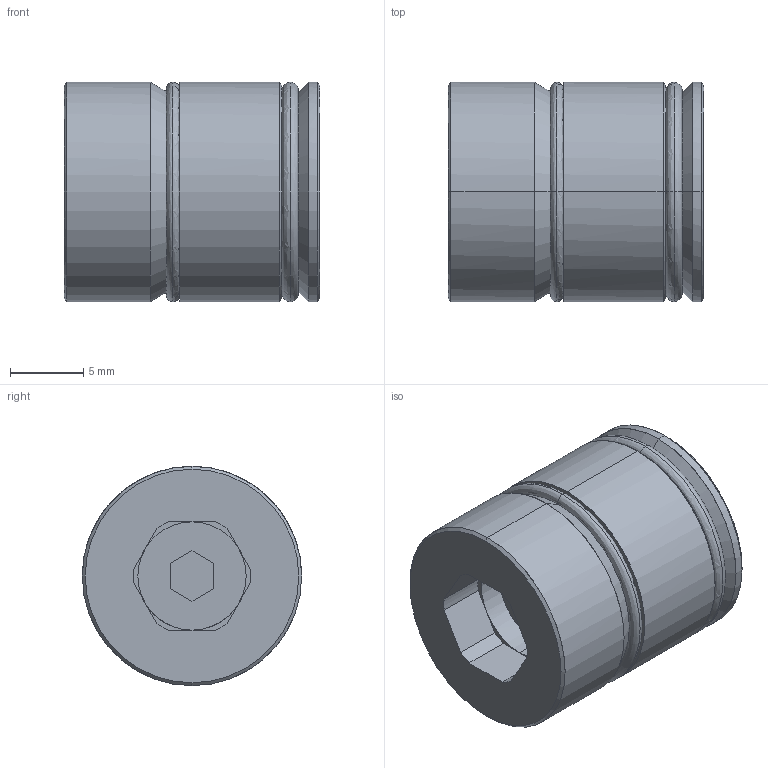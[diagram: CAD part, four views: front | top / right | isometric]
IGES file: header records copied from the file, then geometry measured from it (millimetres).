
Start section: START RECORD GO HERE.
Global section: file name: TRI-15.igs; native system: DASSAULT SYSTEMES CATIA V5 R20 - www.3ds.com; preprocessor: CATIA Version 5 Release 20 ; author: Utente; organization: NB04-ASUS; date: 20210222.201115; units: millimetre
Bounding box: 17.5 x 15 x 15 mm (x, y, z)
Surface area: 1469.6 mm2 (no closed solid volume)
Topology: 0 solids, 0 shells, 56 faces, 304 edges, 304 vertices
Faces by surface type: revolution 32, plane 24
